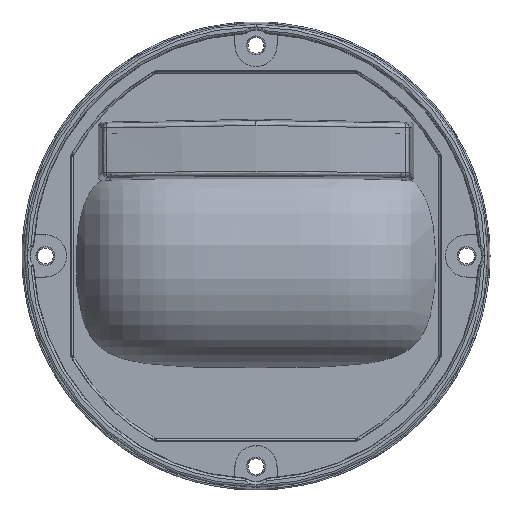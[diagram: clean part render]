
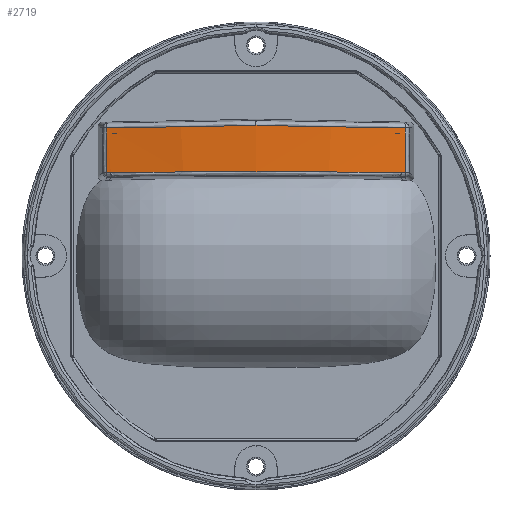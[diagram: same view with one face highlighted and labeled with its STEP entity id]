
A CAD part, top view. The second image highlights one B-rep face of the part: STEP entity #2719.
In plain terms, the highlighted cylindrical face has radius 160 mm (diameter 320 mm), a partial arc.
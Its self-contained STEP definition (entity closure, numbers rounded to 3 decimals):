
#337 = CARTESIAN_POINT ( 'NONE',  ( 28.85, 11.643, 17.114 ) ) ;
#560 = ORIENTED_EDGE ( 'NONE', *, *, #36309, .F. ) ;
#782 = VERTEX_POINT ( 'NONE', #25538 ) ;
#802 = DIRECTION ( 'NONE',  ( 0.001, 1., 0.008 ) ) ;
#2205 = DIRECTION ( 'NONE',  ( 0.001, -1., -0.008 ) ) ;
#2619 = ORIENTED_EDGE ( 'NONE', *, *, #7111, .F. ) ;
#2719 = ADVANCED_FACE ( 'NONE', ( #26450 ), #6381, .T. ) ;
#2909 = LINE ( 'NONE', #3232, #24571 ) ;
#3232 = CARTESIAN_POINT ( 'NONE',  ( 29.773, 16.399, 16.964 ) ) ;
#5313 = CARTESIAN_POINT ( 'NONE',  ( -33.171, 11.643, 17.114 ) ) ;
#5315 = CARTESIAN_POINT ( 'NONE',  ( -2.161, 11.801, 20.149 ) ) ;
#5693 = CARTESIAN_POINT ( 'NONE',  ( 29.775, 11.634, 16.928 ) ) ;
#6151 = CARTESIAN_POINT ( 'NONE',  ( -34.091, 21.168, 17. ) ) ;
#6381 = CYLINDRICAL_SURFACE ( 'NONE', #34722, 160. ) ;
#6469 = VECTOR ( 'NONE', #802, 1000. ) ;
#6860 = CARTESIAN_POINT ( 'NONE',  ( -2.161, 11.801, 20.149 ) ) ;
#7111 = EDGE_CURVE ( 'NONE', #24420, #8218, #2909, .T. ) ;
#8218 = VERTEX_POINT ( 'NONE', #5693 ) ;
#8506 = CARTESIAN_POINT ( 'NONE',  ( 29.77, 21.168, 17. ) ) ;
#9490 = EDGE_CURVE ( 'NONE', #782, #24420, #41754, .T. ) ;
#10063 = EDGE_CURVE ( 'NONE', #20996, #782, #40035, .T. ) ;
#12374 = CARTESIAN_POINT ( 'NONE',  ( -2.161, 21.693, 20.222 ) ) ;
#12451 = ORIENTED_EDGE ( 'NONE', *, *, #14107, .F. ) ;
#12511 = CARTESIAN_POINT ( 'NONE',  ( -12.877, 21.496, 20.221 ) ) ;
#12795 = CARTESIAN_POINT ( 'NONE',  ( -34.091, 21.168, 17. ) ) ;
#13113 = ORIENTED_EDGE ( 'NONE', *, *, #9490, .F. ) ;
#13342 = CARTESIAN_POINT ( 'NONE',  ( -23.591, 21.318, 19.139 ) ) ;
#13580 = CARTESIAN_POINT ( 'NONE',  ( -33.171, 11.643, 17.114 ) ) ;
#13656 = VERTEX_POINT ( 'NONE', #18954 ) ;
#13726 = CARTESIAN_POINT ( 'NONE',  ( -34.094, 16.399, 16.964 ) ) ;
#13973 = ORIENTED_EDGE ( 'NONE', *, *, #24938, .F. ) ;
#14107 = EDGE_CURVE ( 'NONE', #8218, #21797, #31988, .T. ) ;
#15021 = B_SPLINE_CURVE_WITH_KNOTS ( 'NONE', 3,
 ( #20466, #21566, #20353, #20319 ),
 .UNSPECIFIED., .F., .F.,
 ( 4, 4 ),
 ( 0., 1. ),
 .UNSPECIFIED. ) ;
#15104 = LINE ( 'NONE', #13726, #6469 ) ;
#15198 = EDGE_CURVE ( 'NONE', #29116, #13656, #15021, .T. ) ;
#17550 = EDGE_LOOP ( 'NONE', ( #35119, #13973, #41189, #12451, #2619, #13113, #24089, #560 ) ) ;
#18954 = CARTESIAN_POINT ( 'NONE',  ( -34.096, 11.634, 16.928 ) ) ;
#19247 = B_SPLINE_CURVE_WITH_KNOTS ( 'NONE', 3,
 ( #21060, #30812, #24555, #5313 ),
 .UNSPECIFIED., .F., .F.,
 ( 4, 4 ),
 ( 0., 1. ),
 .UNSPECIFIED. ) ;
#20319 = CARTESIAN_POINT ( 'NONE',  ( -34.096, 11.634, 16.928 ) ) ;
#20353 = CARTESIAN_POINT ( 'NONE',  ( -33.788, 11.637, 16.991 ) ) ;
#20466 = CARTESIAN_POINT ( 'NONE',  ( -33.171, 11.643, 17.114 ) ) ;
#20996 = VERTEX_POINT ( 'NONE', #6151 ) ;
#21060 = CARTESIAN_POINT ( 'NONE',  ( -2.161, 11.801, 20.149 ) ) ;
#21566 = CARTESIAN_POINT ( 'NONE',  ( -33.48, 11.64, 17.053 ) ) ;
#21797 = VERTEX_POINT ( 'NONE', #34129 ) ;
#21923 = CARTESIAN_POINT ( 'NONE',  ( 29.77, 21.168, 17. ) ) ;
#22068 = CARTESIAN_POINT ( 'NONE',  ( 19.27, 21.318, 19.139 ) ) ;
#22789 = EDGE_CURVE ( 'NONE', #21797, #27458, #33352, .T. ) ;
#24089 = ORIENTED_EDGE ( 'NONE', *, *, #10063, .F. ) ;
#24420 = VERTEX_POINT ( 'NONE', #8506 ) ;
#24555 = CARTESIAN_POINT ( 'NONE',  ( -22.965, 11.748, 19.131 ) ) ;
#24571 = VECTOR ( 'NONE', #2205, 1000. ) ;
#24845 = CARTESIAN_POINT ( 'NONE',  ( 8.555, 21.496, 20.221 ) ) ;
#24938 = EDGE_CURVE ( 'NONE', #27458, #29116, #19247, .T. ) ;
#25392 = CARTESIAN_POINT ( 'NONE',  ( -2.161, 21.693, 20.222 ) ) ;
#25538 = CARTESIAN_POINT ( 'NONE',  ( -2.161, 21.693, 20.222 ) ) ;
#26063 = CARTESIAN_POINT ( 'NONE',  ( 8.242, 11.801, 20.149 ) ) ;
#26450 = FACE_OUTER_BOUND ( 'NONE', #17550, .T. ) ;
#27458 = VERTEX_POINT ( 'NONE', #5315 ) ;
#28158 = DIRECTION ( 'NONE',  ( 0., -1., -0.007 ) ) ;
#28742 = CARTESIAN_POINT ( 'NONE',  ( -2.161, -63.118, -140.41 ) ) ;
#29116 = VERTEX_POINT ( 'NONE', #13580 ) ;
#30812 = CARTESIAN_POINT ( 'NONE',  ( -12.563, 11.801, 20.149 ) ) ;
#31492 = DIRECTION ( 'NONE',  ( 0., 0.007, -1. ) ) ;
#31988 = B_SPLINE_CURVE_WITH_KNOTS ( 'NONE', 3,
 ( #37665, #37669, #37580, #37534 ),
 .UNSPECIFIED., .F., .F.,
 ( 4, 4 ),
 ( 0., 1. ),
 .UNSPECIFIED. ) ;
#33352 = B_SPLINE_CURVE_WITH_KNOTS ( 'NONE', 3,
 ( #337, #38983, #26063, #6860 ),
 .UNSPECIFIED., .F., .F.,
 ( 4, 4 ),
 ( 0., 1. ),
 .UNSPECIFIED. ) ;
#34129 = CARTESIAN_POINT ( 'NONE',  ( 28.85, 11.643, 17.114 ) ) ;
#34722 = AXIS2_PLACEMENT_3D ( 'NONE', #28742, #28158, #31492 ) ;
#35119 = ORIENTED_EDGE ( 'NONE', *, *, #15198, .F. ) ;
#36309 = EDGE_CURVE ( 'NONE', #13656, #20996, #15104, .T. ) ;
#37534 = CARTESIAN_POINT ( 'NONE',  ( 28.85, 11.643, 17.114 ) ) ;
#37580 = CARTESIAN_POINT ( 'NONE',  ( 29.158, 11.64, 17.053 ) ) ;
#37665 = CARTESIAN_POINT ( 'NONE',  ( 29.775, 11.634, 16.928 ) ) ;
#37669 = CARTESIAN_POINT ( 'NONE',  ( 29.467, 11.637, 16.991 ) ) ;
#38983 = CARTESIAN_POINT ( 'NONE',  ( 18.644, 11.748, 19.131 ) ) ;
#40035 = B_SPLINE_CURVE_WITH_KNOTS ( 'NONE', 3,
 ( #12795, #13342, #12511, #12374 ),
 .UNSPECIFIED., .F., .F.,
 ( 4, 4 ),
 ( 0., 1. ),
 .UNSPECIFIED. ) ;
#41189 = ORIENTED_EDGE ( 'NONE', *, *, #22789, .F. ) ;
#41754 = B_SPLINE_CURVE_WITH_KNOTS ( 'NONE', 3,
 ( #25392, #24845, #22068, #21923 ),
 .UNSPECIFIED., .F., .F.,
 ( 4, 4 ),
 ( 0., 1. ),
 .UNSPECIFIED. ) ;
